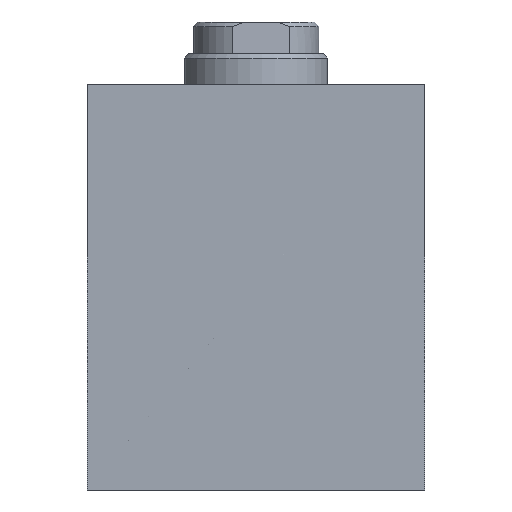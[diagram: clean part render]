
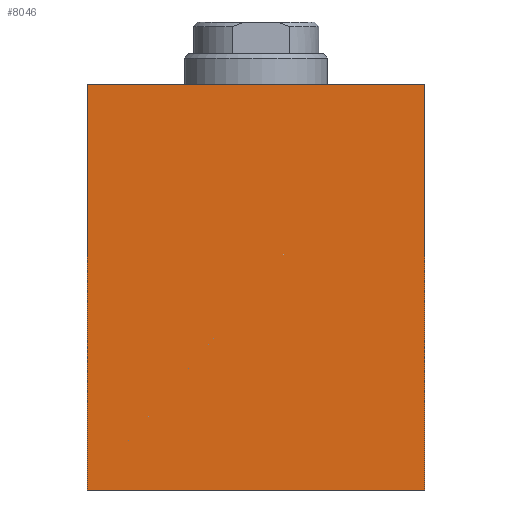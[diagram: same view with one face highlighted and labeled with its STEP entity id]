
A CAD part, front view. The second image highlights one B-rep face of the part: STEP entity #8046.
In plain terms, the highlighted planar face has unit normal (0, -1, 0).
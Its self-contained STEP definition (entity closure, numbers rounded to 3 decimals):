
#633 = FACE_OUTER_BOUND ( 'NONE', #7843, .T. ) ;
#1192 = LINE ( 'NONE', #16758, #9155 ) ;
#1384 = DIRECTION ( 'NONE',  ( 0., 1., 0. ) ) ;
#1966 = DIRECTION ( 'NONE',  ( 1., 0., 0. ) ) ;
#2976 = PLANE ( 'NONE',  #4900 ) ;
#3948 = DIRECTION ( 'NONE',  ( 0., 0., -1. ) ) ;
#4162 = VECTOR ( 'NONE', #3948, 1000. ) ;
#4462 = CARTESIAN_POINT ( 'NONE',  ( 75., 0., 90. ) ) ;
#4900 = AXIS2_PLACEMENT_3D ( 'NONE', #7992, #1384, #16054 ) ;
#5333 = CARTESIAN_POINT ( 'NONE',  ( 0., 0., 0. ) ) ;
#5767 = VERTEX_POINT ( 'NONE', #8723 ) ;
#6501 = CARTESIAN_POINT ( 'NONE',  ( 75., 0., 0. ) ) ;
#6506 = CARTESIAN_POINT ( 'NONE',  ( 0., 0., 90. ) ) ;
#7522 = LINE ( 'NONE', #17424, #20565 ) ;
#7843 = EDGE_LOOP ( 'NONE', ( #19048, #18043, #12024, #14704 ) ) ;
#7992 = CARTESIAN_POINT ( 'NONE',  ( 0., 0., 90. ) ) ;
#8046 = ADVANCED_FACE ( 'NONE', ( #633 ), #2976, .F. ) ;
#8155 = DIRECTION ( 'NONE',  ( 1., 0., 0. ) ) ;
#8270 = LINE ( 'NONE', #18750, #4162 ) ;
#8723 = CARTESIAN_POINT ( 'NONE',  ( 0., 0., 90. ) ) ;
#9155 = VECTOR ( 'NONE', #1966, 1000. ) ;
#9208 = DIRECTION ( 'NONE',  ( 0., 0., -1. ) ) ;
#9631 = VERTEX_POINT ( 'NONE', #5333 ) ;
#9722 = VECTOR ( 'NONE', #8155, 1000. ) ;
#10530 = EDGE_CURVE ( 'NONE', #5767, #9631, #7522, .T. ) ;
#12003 = EDGE_CURVE ( 'NONE', #13130, #12544, #8270, .T. ) ;
#12024 = ORIENTED_EDGE ( 'NONE', *, *, #14392, .F. ) ;
#12544 = VERTEX_POINT ( 'NONE', #6501 ) ;
#13130 = VERTEX_POINT ( 'NONE', #4462 ) ;
#14392 = EDGE_CURVE ( 'NONE', #5767, #13130, #16855, .T. ) ;
#14704 = ORIENTED_EDGE ( 'NONE', *, *, #10530, .T. ) ;
#16054 = DIRECTION ( 'NONE',  ( 0., 0., 1. ) ) ;
#16758 = CARTESIAN_POINT ( 'NONE',  ( 0., 0., 0. ) ) ;
#16855 = LINE ( 'NONE', #6506, #9722 ) ;
#17424 = CARTESIAN_POINT ( 'NONE',  ( 0., 0., 90. ) ) ;
#18043 = ORIENTED_EDGE ( 'NONE', *, *, #12003, .F. ) ;
#18750 = CARTESIAN_POINT ( 'NONE',  ( 75., 0., 90. ) ) ;
#19048 = ORIENTED_EDGE ( 'NONE', *, *, #19741, .T. ) ;
#19741 = EDGE_CURVE ( 'NONE', #9631, #12544, #1192, .T. ) ;
#20565 = VECTOR ( 'NONE', #9208, 1000. ) ;
